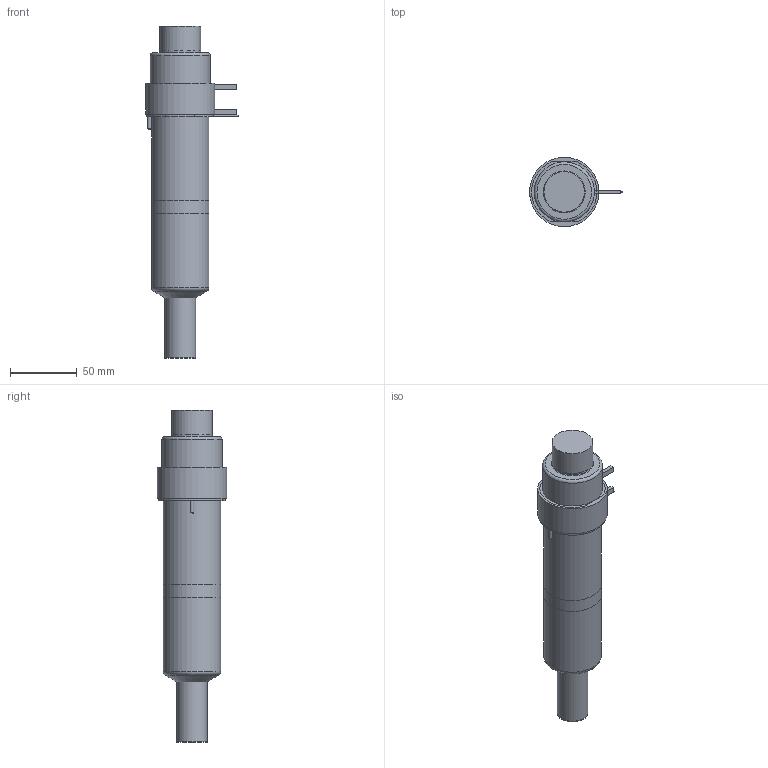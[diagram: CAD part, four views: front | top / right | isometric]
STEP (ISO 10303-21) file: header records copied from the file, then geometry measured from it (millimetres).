
FILE_DESCRIPTION(/* description */ (''),/* implementation_level */ '2;1');
FILE_NAME(/* name */ 'SXYCN27145P7U_250C_a',/* time_stamp */ '2016-03-07T10:33:22+13:00',/* author */ (''),/* organization */ (''),/* preprocessor_version */ 'ST-DEVELOPER v9',/* originating_system */ 'UGS - NX 4.0',/* authorisation */ '');
FILE_SCHEMA (('CONFIG_CONTROL_DESIGN'));
Length unit declared in the file: millimetre
Products named in the file (1): Matt0C2Fmyff
Bounding box: 69.6 x 52 x 248.8 mm (x, y, z)
Volume: 566231.6 mm3; surface area: 71475.3 mm2
Topology: 7 solids, 7 shells, 91 faces, 176 edges, 113 vertices
Faces by surface type: plane 43, cylinder 29, torus 9, cone 8, bspline 1, sphere 1
Full cylindrical faces by diameter (mm): 1 x3, 2.2 x1, 2.5 x2, 12 x2, 22.61 x1, 22.995 x2, 27.5 x1, 30 x1, 30.4 x1, 38.1 x2, 43 x2, 45 x1, 50 x1, 52 x1
Entity records: 2357 total; most frequent: CARTESIAN_POINT 540, DIRECTION 380, ORIENTED_EDGE 276, AXIS2_PLACEMENT_3D 165, EDGE_LOOP 138, EDGE_CURVE 138, VERTEX_POINT 109, ADVANCED_FACE 91
